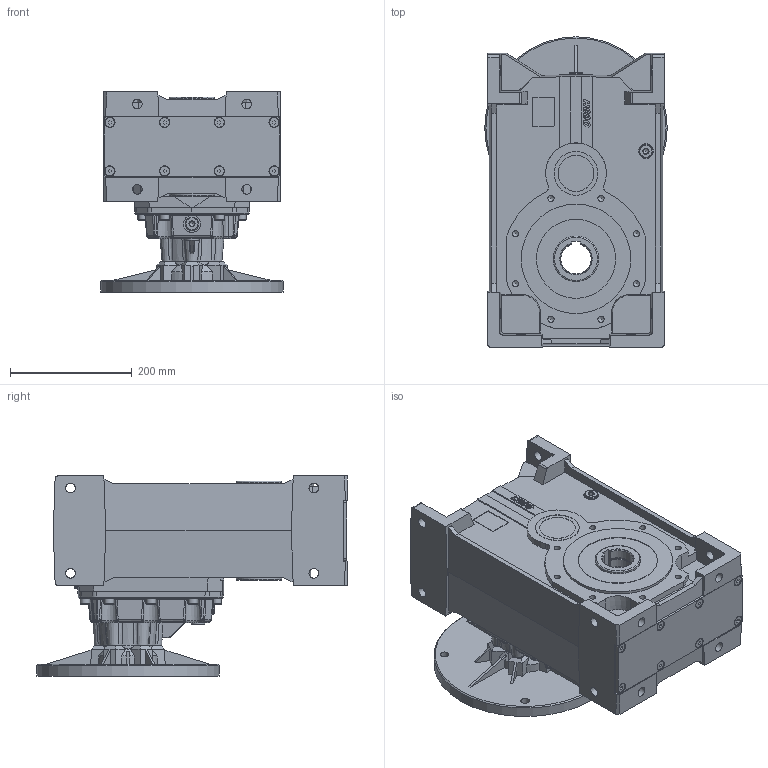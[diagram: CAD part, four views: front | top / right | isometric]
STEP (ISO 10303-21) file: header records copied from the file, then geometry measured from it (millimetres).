
FILE_DESCRIPTION( ( 'Unknown' ), '1' );
FILE_NAME( 'E:/services/configuratordownloads/customers/HYDROMEC/H/download/A5BF7131B3D44F41FD5C7AC49450DF4A/STEP/A5BF7131B3D44F41FD5C7AC49450DF4A.3d.stp', 'Unknown', ( 'Unknown' ), ( 'Unknown' ), 'PSStep 10.1', 'Unknown', ' ' );
FILE_SCHEMA( ( 'AUTOMOTIVE_DESIGN { 1 0 10303 214 1 1 1 1 }' ) );
Length unit declared in the file: millimetre
Products named in the file (1): H808800
Bounding box: 300 x 510.5 x 328.9 mm (x, y, z)
Volume: 21780641.5 mm3; surface area: 1112984.4 mm2
Topology: 1 solids, 41 shells, 1626 faces, 4113 edges, 2639 vertices
Faces by surface type: plane 861, cylinder 384, cone 164, bspline 156, torus 61
Full cylindrical faces by diameter (mm): 4.917 x14, 7.6 x8, 8 x10, 8.5 x16, 10 x10, 10.106 x8, 11 x10, 13 x6, 14 x4, 14.3 x8, 14.95 x13, 15.6 x8, 16 x22, 17 x8, 22 x16, 24 x6, 28 x2, 55 x1, 59 x1, 61 x1, 63 x1, 72 x1, 75 x2, 90 x1, 100 x1, 120 x1, 130 x1, 180 x1, 228.5 x1, 230 x1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
Entity records: 72298 total; most frequent: CARTESIAN_POINT 23340, DIRECTION 7300, ORIENTED_EDGE 7050, EDGE_CURVE 3525, AXIS2_PLACEMENT_3D 2718, VERTEX_POINT 2419, EDGE_LOOP 2140, LINE 1864
